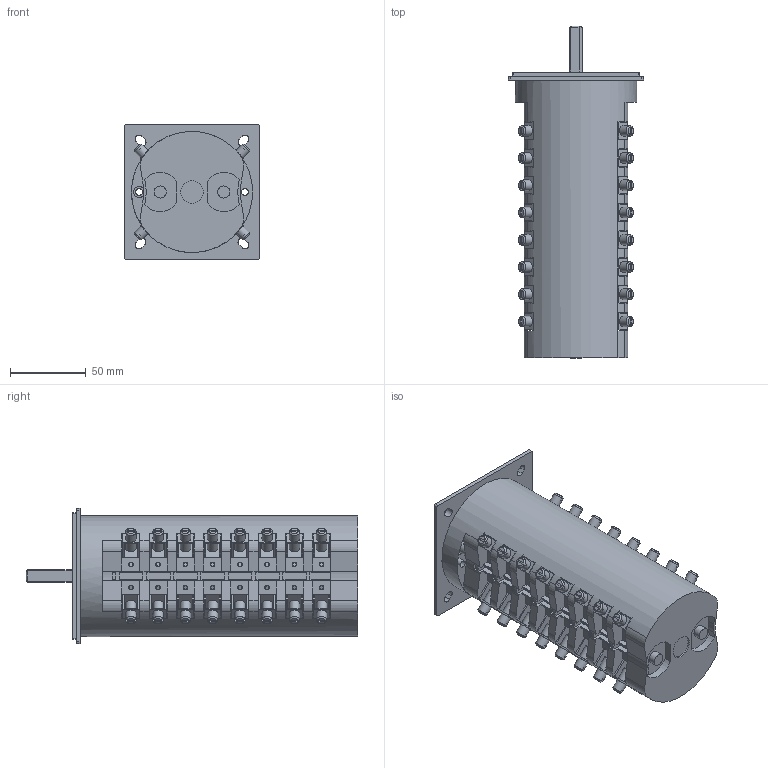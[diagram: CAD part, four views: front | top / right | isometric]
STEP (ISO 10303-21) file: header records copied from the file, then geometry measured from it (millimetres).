
FILE_DESCRIPTION(/* description */ (''),/* implementation_level */ '2;1');
FILE_NAME(/* name */ '4G80-U_8_korpusow.stp',/* time_stamp */ '2021-07-22T07:27:52+02:00',/* author */ (''),/* organization */ (''),/* preprocessor_version */ 'ST-DEVELOPER v18.1',/* originating_system */ 'SIEMENS PLM Software NX 1965',/* authorisation */ '');
FILE_SCHEMA (('AUTOMOTIVE_DESIGN { 1 0 10303 214 3 1 1 1 }'));
Length unit declared in the file: millimetre
Products named in the file (1): 4G80-U_8_korpusow_stp
Bounding box: 89.2 x 219.25 x 89.2 mm (x, y, z)
Volume: 767068.1 mm3; surface area: 153137.1 mm2
Topology: 1 solids, 57 shells, 1537 faces, 3950 edges, 2635 vertices
Faces by surface type: plane 1116, cylinder 322, cone 96, bspline 3
Full cylindrical faces by diameter (mm): 2.5 x32, 4.5 x2, 7 x64, 7.5 x2, 8 x4, 8.5 x2, 11.6 x2, 12 x3, 15 x1, 80 x1
Entity records: 47408 total; most frequent: CARTESIAN_POINT 10805, DIRECTION 7385, ORIENTED_EDGE 7374, EDGE_CURVE 3687, LINE 2655, VECTOR 2655, VERTEX_POINT 2528, AXIS2_PLACEMENT_3D 2365
